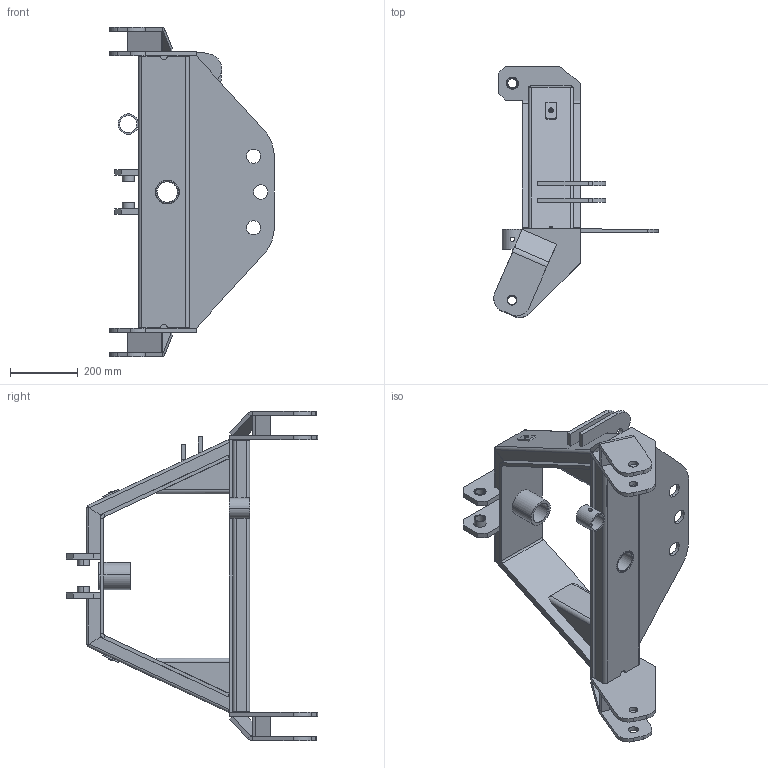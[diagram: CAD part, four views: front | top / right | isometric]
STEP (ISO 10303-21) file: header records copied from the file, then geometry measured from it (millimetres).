
FILE_DESCRIPTION (( 'STEP AP203' ), '1' );
FILE_NAME ('T-SP3.0-2HY-01三点连接架组件.STEP', '2025-10-29T12:47:16', ( '' ), ( '' ), 'SwSTEP 2.0', 'SolidWorks 2018', '' );
FILE_SCHEMA (( 'CONFIG_CONTROL_DESIGN' ));
Length unit declared in the file: millimetre
Products named in the file (19): T-SP3.0-2HY-01-09-Q345蚐詰奻蟀諉啣; T-SP3.0-2HY-01-10-Q345蚐詰狟蟀諉啣; T-SP3.0-2HY-01-08-Q345三点连接下折弯板; 朴17.2-菁釱 邧薊呿蹋奪標JB ZQ4008-2006; T-SP3.0-2HY-01-14-Q345三点连接加强板; T-SP3.0-2HY-01-05-Q235三点连接侧折弯板; T-SP3.0-2HY-01-01-Q345三点连接安装板; T-SP3.0-2HY-01-02-Q235撻倛奪-儂樓; T-SP3.0-2HY-01-11-Q235拸瑜奪-儂樓; T-SP3.0-2HY-01-07-Q345三点连接下耳板; ZT-耳35-耳29-36-Q235粣杶; T-SP3.0-2HY-01-04-Q345三点连接折弯板; FXB-T12×110×60-Q345方形板; ZT-耳80-耳61-92-45#粣杶; ZT-耳35-耳26-36-Q235粣杶; T-SP3.0-2HY-01-06-Q235三点连接上折弯板; T-SP3.0-2HY-01三点连接架组件; ZT-耳70-耳60-50-Q235粣杶; T-SP3.0-2HY-01-03-Q345三点连接上耳板
Assembly tree (26 placements, depth 2):
  T-SP3.0-2HY-01三点连接架组件
    T-SP3.0-2HY-01-01-Q345三点连接安装板
    T-SP3.0-2HY-01-02-Q235撻倛奪-儂樓
    T-SP3.0-2HY-01-03-Q345三点连接上耳板  x2
    ZT-耳35-耳26-36-Q235粣杶
    ZT-耳35-耳29-36-Q235粣杶
    T-SP3.0-2HY-01-04-Q345三点连接折弯板
    T-SP3.0-2HY-01-05-Q235三点连接侧折弯板  x2
    T-SP3.0-2HY-01-06-Q235三点连接上折弯板  x2
    ZT-耳80-耳61-92-45#粣杶
    T-SP3.0-2HY-01-07-Q345三点连接下耳板  x2
    T-SP3.0-2HY-01-08-Q345三点连接下折弯板  x2
    FXB-T12×110×60-Q345方形板  x2
    T-SP3.0-2HY-01-09-Q345蚐詰奻蟀諉啣
    T-SP3.0-2HY-01-10-Q345蚐詰狟蟀諉啣
    T-SP3.0-2HY-01-11-Q235拸瑜奪-儂樓
    ZT-耳70-耳60-50-Q235粣杶
    T-SP3.0-2HY-01-14-Q345三点连接加强板  x2
    朴17.2-菁釱 邧薊呿蹋奪標JB ZQ4008-2006  x2
Bounding box: 484.53 x 740.25 x 970 mm (x, y, z)
Volume: 10042907.6 mm3; surface area: 2851324.5 mm2
Topology: 26 solids, 26 shells, 448 faces, 1046 edges, 650 vertices
Faces by surface type: plane 246, cylinder 132, bspline 40, cone 26, torus 4
Entity records: 11896 total; most frequent: CARTESIAN_POINT 2485, DIRECTION 1512, ORIENTED_EDGE 1448, EDGE_CURVE 724, AXIS2_PLACEMENT_3D 538, VERTEX_POINT 454, VECTOR 436, LINE 436
